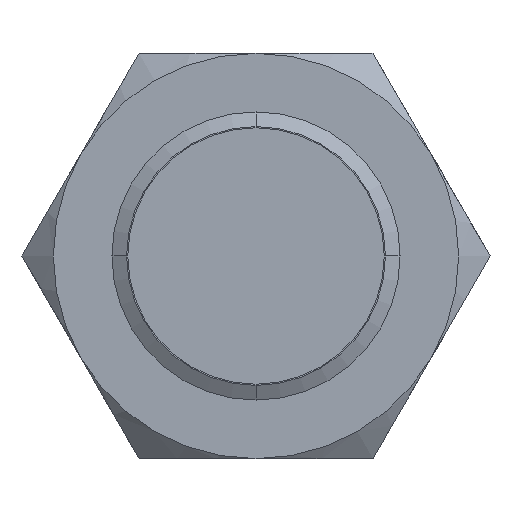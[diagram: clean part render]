
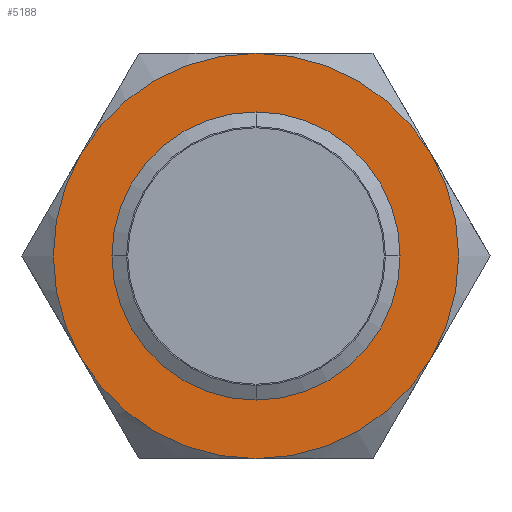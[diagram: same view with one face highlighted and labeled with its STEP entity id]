
A CAD part, left-side view. The second image highlights one B-rep face of the part: STEP entity #5188.
In plain terms, the highlighted planar face has unit normal (-1, 0, 0).
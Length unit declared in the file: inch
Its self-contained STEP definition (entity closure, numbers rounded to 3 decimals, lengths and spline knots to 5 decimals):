
#218 = CARTESIAN_POINT ( 'NONE',  ( 17.9433, 6.93276, 0. ) ) ;
#380 = VERTEX_POINT ( 'NONE', #6583 ) ;
#451 = CARTESIAN_POINT ( 'NONE',  ( 17.9433, 7.39476, 0. ) ) ;
#548 = CIRCLE ( 'NONE', #551, 0.231 ) ;
#551 = AXIS2_PLACEMENT_3D ( 'NONE', #552, #553, #554 ) ;
#552 = CARTESIAN_POINT ( 'NONE',  ( 17.9433, 7.16376, 0. ) ) ;
#553 = DIRECTION ( 'NONE',  ( -1., 0., 0. ) ) ;
#554 = DIRECTION ( 'NONE',  ( 0., 1., 0. ) ) ;
#661 = CARTESIAN_POINT ( 'NONE',  ( 17.9433, 7.45128, 0.166 ) ) ;
#727 = CIRCLE ( 'NONE', #728, 0.332 ) ;
#728 = AXIS2_PLACEMENT_3D ( 'NONE', #729, #730, #731 ) ;
#729 = CARTESIAN_POINT ( 'NONE',  ( 17.9433, 7.16376, 0. ) ) ;
#730 = DIRECTION ( 'NONE',  ( 1., 0., 0. ) ) ;
#731 = DIRECTION ( 'NONE',  ( 0., 0., -1. ) ) ;
#1484 = EDGE_CURVE ( 'NONE', #9769, #6034, #7328, .T. ) ;
#1751 = CIRCLE ( 'NONE', #1752, 0.231 ) ;
#1752 = AXIS2_PLACEMENT_3D ( 'NONE', #1753, #1767, #1768 ) ;
#1753 = CARTESIAN_POINT ( 'NONE',  ( 17.9433, 7.16376, 0. ) ) ;
#1767 = DIRECTION ( 'NONE',  ( -1., 0., 0. ) ) ;
#1768 = DIRECTION ( 'NONE',  ( 0., 1., 0. ) ) ;
#4073 = ORIENTED_EDGE ( 'NONE', *, *, #10388, .F. ) ;
#4674 = EDGE_LOOP ( 'NONE', ( #4073, #9588, #8999, #8395, #7797, #7185 ) ) ;
#4760 = EDGE_CURVE ( 'NONE', #6034, #8821, #9509, .T. ) ;
#4811 = ORIENTED_EDGE ( 'NONE', *, *, #15281, .F. ) ;
#4869 = VERTEX_POINT ( 'NONE', #9864 ) ;
#4966 = ORIENTED_EDGE ( 'NONE', *, *, #13280, .F. ) ;
#5126 = EDGE_LOOP ( 'NONE', ( #4966, #4811 ) ) ;
#5188 = ADVANCED_FACE ( 'NONE', ( #10538, #10539 ), #10545, .F. ) ;
#6034 = VERTEX_POINT ( 'NONE', #12747 ) ;
#6187 = EDGE_CURVE ( 'NONE', #13454, #380, #13095, .T. ) ;
#6583 = CARTESIAN_POINT ( 'NONE',  ( 17.9433, 7.16376, 0.332 ) ) ;
#7185 = ORIENTED_EDGE ( 'NONE', *, *, #1484, .F. ) ;
#7328 = CIRCLE ( 'NONE', #7329, 0.332 ) ;
#7329 = AXIS2_PLACEMENT_3D ( 'NONE', #7330, #7335, #7336 ) ;
#7330 = CARTESIAN_POINT ( 'NONE',  ( 17.9433, 7.16376, 0. ) ) ;
#7335 = DIRECTION ( 'NONE',  ( 1., 0., 0. ) ) ;
#7336 = DIRECTION ( 'NONE',  ( 0., 0., -1. ) ) ;
#7797 = ORIENTED_EDGE ( 'NONE', *, *, #4760, .F. ) ;
#7948 = EDGE_CURVE ( 'NONE', #8821, #13454, #14556, .T. ) ;
#8395 = ORIENTED_EDGE ( 'NONE', *, *, #7948, .F. ) ;
#8821 = VERTEX_POINT ( 'NONE', #15041 ) ;
#8999 = ORIENTED_EDGE ( 'NONE', *, *, #6187, .F. ) ;
#9509 = CIRCLE ( 'NONE', #9510, 0.332 ) ;
#9510 = AXIS2_PLACEMENT_3D ( 'NONE', #9511, #9512, #9513 ) ;
#9511 = CARTESIAN_POINT ( 'NONE',  ( 17.9433, 7.16376, 0. ) ) ;
#9512 = DIRECTION ( 'NONE',  ( 1., 0., 0. ) ) ;
#9513 = DIRECTION ( 'NONE',  ( 0., 0., -1. ) ) ;
#9588 = ORIENTED_EDGE ( 'NONE', *, *, #13558, .F. ) ;
#9769 = VERTEX_POINT ( 'NONE', #15613 ) ;
#9864 = CARTESIAN_POINT ( 'NONE',  ( 17.9433, 6.87624, 0.166 ) ) ;
#10388 = EDGE_CURVE ( 'NONE', #4869, #9769, #15897, .T. ) ;
#10538 = FACE_BOUND ( 'NONE', #5126, .T. ) ;
#10539 = FACE_OUTER_BOUND ( 'NONE', #4674, .T. ) ;
#10545 = PLANE ( 'NONE',  #10546 ) ;
#10546 = AXIS2_PLACEMENT_3D ( 'NONE', #10547, #10548, #10549 ) ;
#10547 = CARTESIAN_POINT ( 'NONE',  ( 17.9433, 7.16376, 0. ) ) ;
#10548 = DIRECTION ( 'NONE',  ( 1., 0., 0. ) ) ;
#10549 = DIRECTION ( 'NONE',  ( 0., 0., -1. ) ) ;
#12747 = CARTESIAN_POINT ( 'NONE',  ( 17.9433, 7.16376, -0.332 ) ) ;
#12763 = VERTEX_POINT ( 'NONE', #218 ) ;
#13015 = VERTEX_POINT ( 'NONE', #451 ) ;
#13095 = CIRCLE ( 'NONE', #13096, 0.332 ) ;
#13096 = AXIS2_PLACEMENT_3D ( 'NONE', #13097, #13098, #13099 ) ;
#13097 = CARTESIAN_POINT ( 'NONE',  ( 17.9433, 7.16376, 0. ) ) ;
#13098 = DIRECTION ( 'NONE',  ( 1., 0., 0. ) ) ;
#13099 = DIRECTION ( 'NONE',  ( 0., 0., -1. ) ) ;
#13280 = EDGE_CURVE ( 'NONE', #13015, #12763, #548, .T. ) ;
#13454 = VERTEX_POINT ( 'NONE', #661 ) ;
#13558 = EDGE_CURVE ( 'NONE', #380, #4869, #727, .T. ) ;
#14556 = CIRCLE ( 'NONE', #14557, 0.332 ) ;
#14557 = AXIS2_PLACEMENT_3D ( 'NONE', #14558, #14559, #14560 ) ;
#14558 = CARTESIAN_POINT ( 'NONE',  ( 17.9433, 7.16376, 0. ) ) ;
#14559 = DIRECTION ( 'NONE',  ( 1., 0., 0. ) ) ;
#14560 = DIRECTION ( 'NONE',  ( 0., 0., -1. ) ) ;
#15041 = CARTESIAN_POINT ( 'NONE',  ( 17.9433, 7.45128, -0.166 ) ) ;
#15281 = EDGE_CURVE ( 'NONE', #12763, #13015, #1751, .T. ) ;
#15613 = CARTESIAN_POINT ( 'NONE',  ( 17.9433, 6.87624, -0.166 ) ) ;
#15897 = CIRCLE ( 'NONE', #15898, 0.332 ) ;
#15898 = AXIS2_PLACEMENT_3D ( 'NONE', #15899, #15900, #15901 ) ;
#15899 = CARTESIAN_POINT ( 'NONE',  ( 17.9433, 7.16376, 0. ) ) ;
#15900 = DIRECTION ( 'NONE',  ( 1., 0., 0. ) ) ;
#15901 = DIRECTION ( 'NONE',  ( 0., 0., -1. ) ) ;
